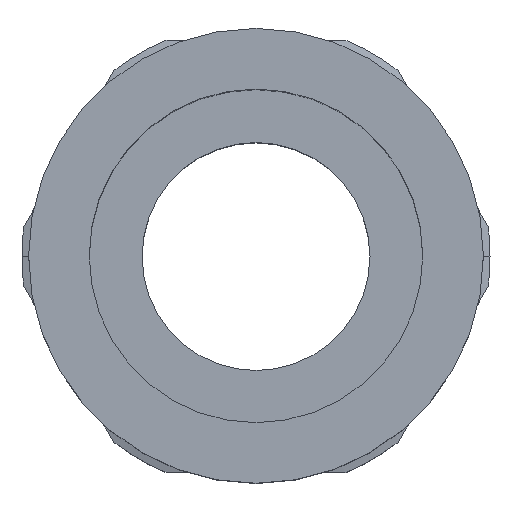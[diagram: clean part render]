
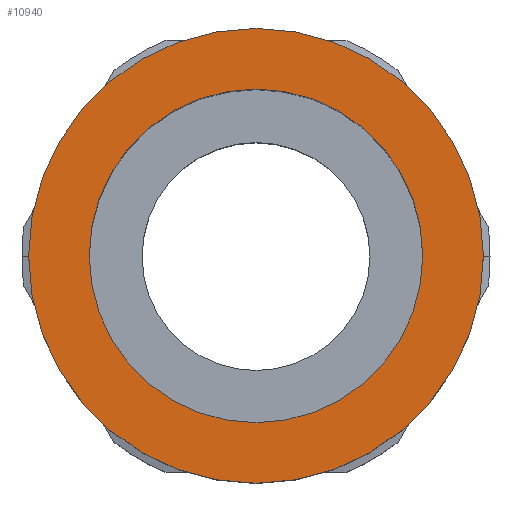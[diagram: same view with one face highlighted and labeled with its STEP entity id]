
A CAD part, top view. The second image highlights one B-rep face of the part: STEP entity #10940.
In plain terms, the highlighted planar face has unit normal (0, 0, 1) as drawn and (-1, 0, 0) by its records, which use the part's own axes.
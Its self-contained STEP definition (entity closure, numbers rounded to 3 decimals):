
#9940=CARTESIAN_POINT('',(-38.825,0.,-13.9));
#9950=VERTEX_POINT('',#9940);
#10110=CARTESIAN_POINT('',(-38.825,0.,13.9));
#10120=VERTEX_POINT('',#10110);
#10150=CARTESIAN_POINT('',(-38.825,0.,0.));
#10160=DIRECTION('',(-1.,0.,0.));
#10170=DIRECTION('',(0.,0.,1.));
#10180=AXIS2_PLACEMENT_3D('',#10150,#10160,#10170);
#10190=CIRCLE('',#10180,13.9);
#10200=EDGE_CURVE('',#9950,#10120,#10190,.T.);
#10690=CARTESIAN_POINT('',(-38.825,17.675,0.));
#10700=DIRECTION('',(-1.,0.,0.));
#10710=DIRECTION('',(0.,1.,0.));
#10720=AXIS2_PLACEMENT_3D('',#10690,#10700,#10710);
#10730=PLANE('',#10720);
#10740=EDGE_CURVE('',#10120,#9950,#10190,.T.);
#10750=ORIENTED_EDGE('',*,*,#10740,.F.);
#10760=ORIENTED_EDGE('',*,*,#10200,.F.);
#10770=EDGE_LOOP('',(#10760,#10750));
#10780=FACE_BOUND('',#10770,.T.);
#10790=CARTESIAN_POINT('',(-38.825,0.,
0.));
#10800=DIRECTION('',(1.,0.,0.));
#10810=DIRECTION('',(0.,-1.,0.));
#10820=AXIS2_PLACEMENT_3D('',#10790,#10800,#10810);
#10830=CIRCLE('',#10820,18.95);
#10840=CARTESIAN_POINT('',(-38.825,-18.95,0.));
#10850=VERTEX_POINT('',#10840);
#10860=CARTESIAN_POINT('',(-38.825,18.95,0.));
#10870=VERTEX_POINT('',#10860);
#10880=EDGE_CURVE('',#10850,#10870,#10830,.T.);
#10890=ORIENTED_EDGE('',*,*,#10880,.F.);
#10900=EDGE_CURVE('',#10870,#10850,#10830,.T.);
#10910=ORIENTED_EDGE('',*,*,#10900,.F.);
#10920=EDGE_LOOP('',(#10910,#10890));
#10930=FACE_OUTER_BOUND('',#10920,.T.);
#10940=ADVANCED_FACE('',(#10780,#10930),#10730,.T.);
